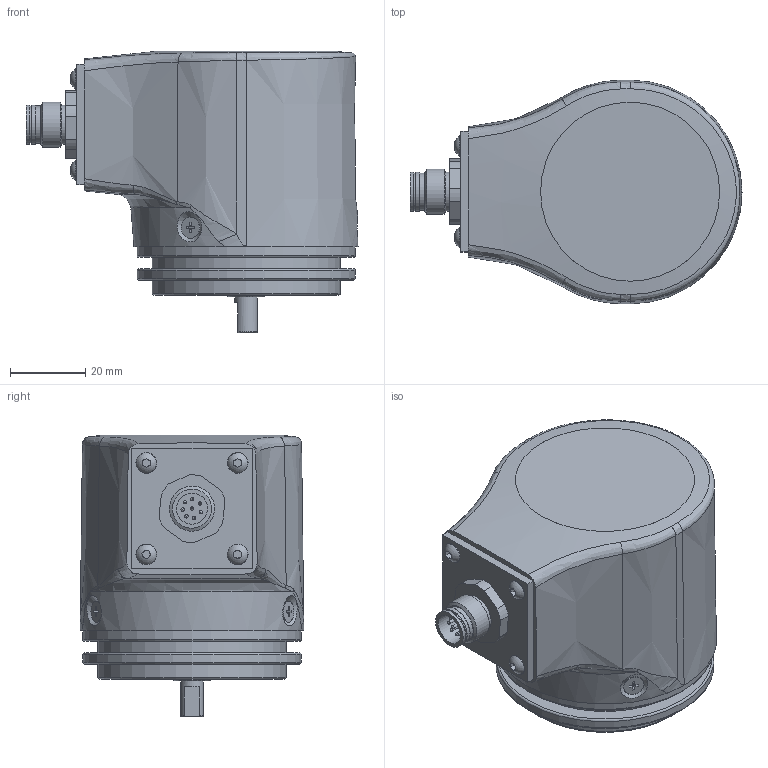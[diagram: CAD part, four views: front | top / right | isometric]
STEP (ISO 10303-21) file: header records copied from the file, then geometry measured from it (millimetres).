
FILE_DESCRIPTION(/* description */ ('Unknown'),/* implementation_level */ '2;1');
FILE_NAME(/* name */ 'EL_EMI_EMIP_ER_58BM_6_M12R_8P',/* time_stamp */ '2022-08-31T14:08:43+02:00',/* author */ ('Unknown'),/* organization */ ('Unknown'),/* preprocessor_version */ 'ST-DEVELOPER v16.7',/* originating_system */ 'DEX',/* authorisation */ $);
FILE_SCHEMA (('AUTOMOTIVE_DESIGN {1 0 10303 214 3 1 1}'));
Length unit declared in the file: millimetre
Products named in the file (1): EL_EMI_EMIP_ER_58BM_6_M12R_8P
Bounding box: 88.23 x 59.45 x 74.8 mm (x, y, z)
Volume: 103780 mm3; surface area: 61773 mm2
Topology: 35 solids, 37 shells, 575 faces, 1334 edges, 853 vertices
Faces by surface type: plane 223, cylinder 161, torus 76, cone 58, bspline 37, sphere 20
Full cylindrical faces by diameter (mm): 0.9 x16, 1.5 x8, 2.05 x2, 2.459 x7, 2.5 x3, 3 x7, 3.2 x3, 3.242 x3, 3.5 x4, 5.6 x3, 6 x1, 8.25 x1, 10 x14, 10.4 x3, 12 x1, 12.4 x1, 13 x1, 13.8 x1, 14.5 x4, 14.53 x1, 15.2 x1, 20 x1, 21.2 x4, 21.998 x4, 22 x1, 22.5 x1, 26 x3, 26.1 x1, 26.2 x1, 27 x1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
Entity records: 23141 total; most frequent: CARTESIAN_POINT 10919, DIRECTION 2360, ORIENTED_EDGE 1964, AXIS2_PLACEMENT_3D 1015, EDGE_CURVE 982, FACE_BOUND 862, EDGE_LOOP 830, VERTEX_POINT 758
